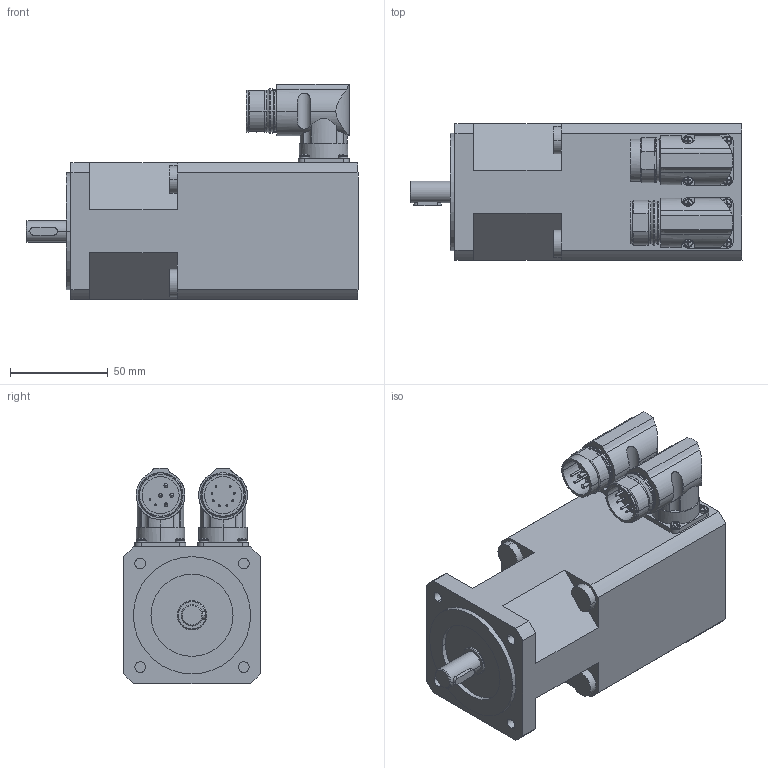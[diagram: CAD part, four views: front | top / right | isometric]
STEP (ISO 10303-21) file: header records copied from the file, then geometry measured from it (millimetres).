
FILE_DESCRIPTION((''),'2;1');
FILE_NAME('ACG0090.stp','2005-05-19T13:34:56',(''),(''),'Mechanical Desktop 2005','Mechanical Desktop 2005',', , ');
FILE_SCHEMA(('AUTOMOTIVE_DESIGN { 1 2 10303 214 0 1 1 1 }'));
Length unit declared in the file: millimetre
Products named in the file (2): ACG0090; CARCASA
Assembly tree (1 placements, depth 2):
  ACG0090
    CARCASA
Bounding box: 170 x 70 x 110.22 mm (x, y, z)
Volume: 727571.1 mm3; surface area: 65124.3 mm2
Topology: 1 solids, 1 shells, 620 faces, 1507 edges, 894 vertices
Faces by surface type: plane 290, cylinder 192, cone 78, sphere 32, torus 24, bspline 4
Entity records: 19214 total; most frequent: CARTESIAN_POINT 4895, DIRECTION 3119, ORIENTED_EDGE 2926, EDGE_CURVE 1463, AXIS2_PLACEMENT_3D 1242, VERTEX_POINT 894, EDGE_LOOP 677, VECTOR 635
